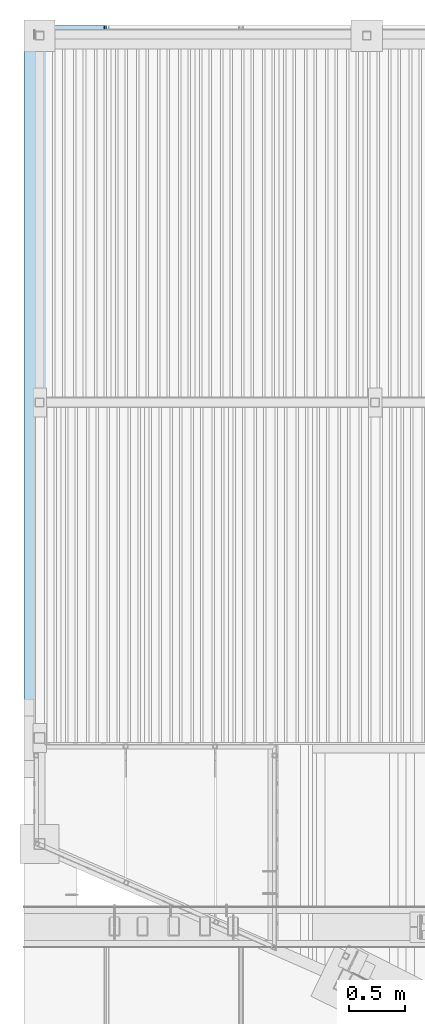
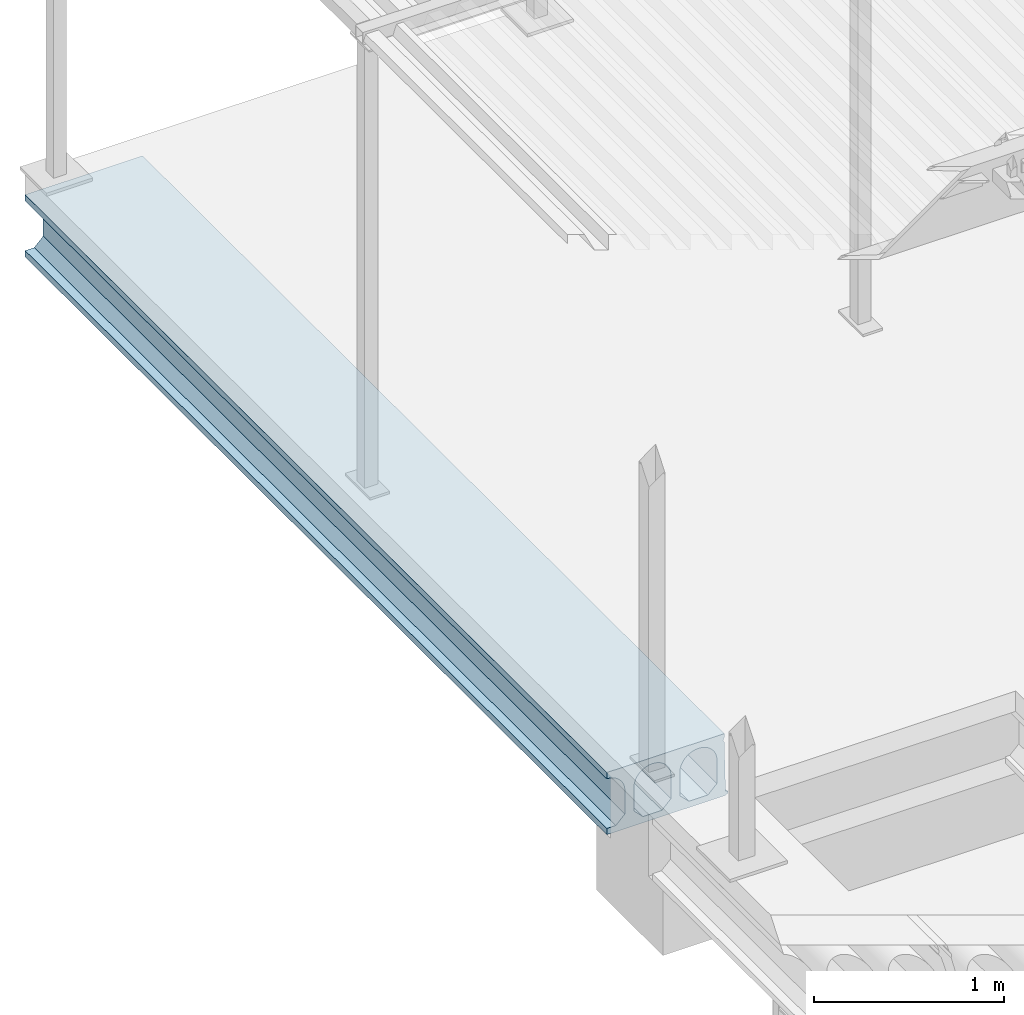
# One storey, part 77 of 98: 1 slab.
"""IFC2X3 building model written with IfcOpenShell, lengths in millimetres."""

from ifc_helpers import new_model, entity, si_unit, converted_unit, derived_unit, direction, frame, origin_with_axes, place, context, subcontext, project, spatial, faceted_brep, type_object, element, save


model = new_model("IFC2X3")

# Units and contexts
model_context = context("Model", 3, precision=0.01, world=frame((0.0, 4.29681676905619e-09, 0.0)), true_north=direction((4.01073788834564e-13, 1.0)))
plan_context = context("Plan", 3, precision=0.01, world=frame((0.0, 4.29681676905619e-09, 0.0)), true_north=direction((4.01073788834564e-13, 1.0)))
body_context = subcontext(model_context, "Body", "Model", "MODEL_VIEW")
ifc_project = project(units=[converted_unit("PLANEANGLEUNIT", "DEGREE", entity("IfcPositiveLengthMeasure", 0.0174532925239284), si_unit("PLANEANGLEUNIT", "RADIAN"), dimensions=[0, 0, 0, 0, 0, 0, 0]), si_unit("AREAUNIT", "SQUARE_METRE"), si_unit("LENGTHUNIT", "METRE", prefix="MILLI"), si_unit("MASSUNIT", "GRAM", prefix="KILO"), si_unit("POWERUNIT", "WATT"), si_unit("PRESSUREUNIT", "PASCAL"), si_unit("FORCEUNIT", "NEWTON", prefix="KILO"), si_unit("ELECTRICCURRENTUNIT", "AMPERE"), si_unit("THERMODYNAMICTEMPERATUREUNIT", "DEGREE_CELSIUS"), si_unit("TIMEUNIT", "SECOND"), si_unit("VOLUMEUNIT", "CUBIC_METRE"), derived_unit("LINEARVELOCITYUNIT", [(si_unit("LENGTHUNIT", "METRE"), 1), (si_unit("TIMEUNIT", "SECOND"), -1)]), derived_unit("VOLUMETRICFLOWRATEUNIT", [(si_unit("VOLUMEUNIT", "CUBIC_METRE"), 1), (si_unit("TIMEUNIT", "SECOND"), -1)]), derived_unit("THERMALTRANSMITTANCEUNIT", [(si_unit("POWERUNIT", "WATT"), 1), (si_unit("THERMODYNAMICTEMPERATUREUNIT", "KELVIN"), -1), (si_unit("AREAUNIT", "SQUARE_METRE"), -1)])], contexts=[model_context, plan_context])

# Site, building, storey
site_placement = place(None, frame((0.0, -4.29681676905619e-09, 0.0), z_axis=(0.0, 0.0, 1.0), x_axis=(1.0, 0.0, 0.0)))
site = spatial("IfcSite", under=ifc_project, at=site_placement, Name="Gardermoen", CompositionType="ELEMENT")
building_placement = place(site_placement, frame((0.0, 4.29681676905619e-09, 0.0), z_axis=(0.0, 0.0, 1.0), x_axis=(1.0, 0.0, 0.0)))
building = spatial("IfcBuilding", under=site, at=building_placement, Name="TS", CompositionType="ELEMENT")
storey_placement = place(building_placement, origin_with_axes())
storey = spatial("IfcBuildingStorey", under=building, at=storey_placement, Name="D", CompositionType="ELEMENT", Elevation=0.0)

# Slab
slab_type = type_object("IfcSlabType", Name="HD400", PredefinedType="NOTDEFINED")
slab_placement = place(storey_placement, frame((513999.999766, 414739.995625, 203600.0), z_axis=(0.0, 0.0, 1.0), x_axis=(0.0, 1.0, 0.0)))
element("IfcSlab", 1, at=slab_placement, inside=storey, type_object=slab_type, Name="HULLDEKKE", ObjectType="HD400", PredefinedType="FLOOR", context=body_context, shape_type="Brep", body=[
    faceted_brep([(0.0, 137.499765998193, 200.0), (6130.19582840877, 137.499765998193, 200.0), (6130.19582840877, -577.5, 200.0), (0.0, -577.5, 200.0), (6130.19582840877, -577.5, 175.0), (0.0, -577.5, 175.0), (6130.19582840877, -570.0, 160.0), (0.0, -570.0, 160.0), (6130.19582840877, -577.5, 145.0), (0.0, -577.5, 145.0), (6130.19582840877, -585.0, -170.0), (0.0, -585.0, -170.0), (6130.19582840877, -600.0, -180.0), (0.0, -600.0, -180.0), (6130.19582840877, -600.0, -190.0), (0.0, -600.0, -190.0), (6130.19582840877, -583.380004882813, -200.0), (0.0, -583.380004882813, -200.0), (6130.19582840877, 137.499765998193, -200.0), (0.0, 137.499765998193, -200.0), (6130.19582840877, -362.499999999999, -160.0), (6130.19582840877, -477.5, -160.0), (0.0, -477.5, -160.0), (0.0, -362.5, -160.0), (6130.19582840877, -532.500000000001, -104.999999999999), (0.0, -532.5, -105.0), (6130.19582840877, -532.5, 47.5000000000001), (0.0, -532.5, 47.5), (6130.19582840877, -532.11575546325, 56.7901763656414), (0.0, -532.115755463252, 56.7901763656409), (6130.19582840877, -530.965646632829, 66.0168914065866), (0.0, -530.965646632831, 66.0168914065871), (6130.19582840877, -529.057529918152, 75.1171173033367), (0.0, -529.057529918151, 75.1171173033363), (6130.19582840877, -526.404439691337, 84.0286902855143), (0.0, -526.404439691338, 84.028690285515), (6130.19582840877, -523.024499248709, 92.6907352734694), (0.0, -523.024499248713, 92.6907352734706), (6130.19582840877, -518.940797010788, 101.044081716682), (0.0, -518.940797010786, 101.044081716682), (6130.19582840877, -514.181228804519, 109.031667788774), (0.0, -514.181228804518, 109.031667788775), (6130.19582840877, -508.778307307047, 116.5989301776), (0.0, -508.778307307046, 116.598930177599), (6130.19582840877, -502.768939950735, 123.694176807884), (0.0, -502.768939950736, 123.694176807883), (6130.19582840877, -496.194176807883, 130.268939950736), (0.0, -496.194176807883, 130.268939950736), (6130.19582840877, -489.098930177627, 136.278307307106), (0.0, -489.098930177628, 136.278307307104), (6130.19582840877, -481.531667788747, 141.681228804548), (0.0, -481.531667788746, 141.681228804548), (6130.19582840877, -473.544081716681, 146.44079701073), (0.0, -473.544081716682, 146.440797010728), (6130.19582840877, -465.19073527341, 150.524499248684), (0.0, -465.190735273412, 150.524499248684), (6130.19582840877, -456.528690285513, 153.904439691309), (0.0, -456.528690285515, 153.904439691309), (6130.19582840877, -447.617117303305, 156.55752991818), (0.0, -447.617117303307, 156.55752991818), (6130.19582840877, -438.516891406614, 158.465646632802), (0.0, -438.516891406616, 158.465646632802), (6130.19582840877, -429.29017636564, 159.615755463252), (0.0, -429.290176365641, 159.615755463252), (6130.19582840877, -419.999999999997, 160.0), (0.0, -420.0, 160.0), (6130.19582840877, -410.70982363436, 159.615755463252), (0.0, -410.709823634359, 159.615755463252), (6130.19582840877, -401.483108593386, 158.465646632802), (0.0, -401.483108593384, 158.465646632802), (6130.19582840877, -392.38288269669, 156.55752991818), (0.0, -392.382882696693, 156.55752991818), (6130.19582840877, -383.471309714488, 153.90443969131), (0.0, -383.471309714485, 153.904439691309), (6130.19582840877, -374.809264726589, 150.524499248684), (0.0, -374.809264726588, 150.524499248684), (6130.19582840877, -366.45591828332, 146.440797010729), (0.0, -366.455918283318, 146.440797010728), (6130.19582840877, -358.468332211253, 141.681228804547), (0.0, -358.468332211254, 141.681228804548), (6130.19582840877, -350.901069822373, 136.278307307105), (0.0, -350.901069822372, 136.278307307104), (6130.19582840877, -343.805823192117, 130.268939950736), (0.0, -343.805823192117, 130.268939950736), (6130.19582840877, -337.231060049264, 123.694176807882), (0.0, -337.231060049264, 123.694176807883), (6130.19582840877, -331.221692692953, 116.598930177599), (0.0, -331.221692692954, 116.598930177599), (6130.19582840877, -325.818771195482, 109.031667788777), (0.0, -325.818771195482, 109.031667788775), (6130.19582840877, -321.059202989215, 101.044081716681), (0.0, -321.059202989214, 101.044081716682), (6130.19582840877, -316.975500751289, 92.6907352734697), (0.0, -316.975500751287, 92.6907352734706), (6130.19582840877, -313.59556030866, 84.0286902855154), (0.0, -313.595560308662, 84.028690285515), (6130.19582840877, -310.942470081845, 75.1171173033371), (0.0, -310.942470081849, 75.1171173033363), (6130.19582840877, -309.034353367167, 66.0168914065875), (0.0, -309.034353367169, 66.0168914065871), (6130.19582840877, -307.884244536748, 56.7901763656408), (0.0, -307.884244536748, 56.7901763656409), (6130.19582840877, -307.500000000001, 47.5000000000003), (0.0, -307.5, 47.5), (6130.19582840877, -307.500000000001, -105.0), (0.0, -307.5, -105.0), (6130.19582840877, -82.5000000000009, -160.0), (6130.19582840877, -197.499999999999, -160.0), (0.0, -197.5, -160.0), (0.0, -82.5, -160.0), (6130.19582840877, -252.5, -104.999999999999), (0.0, -252.5, -105.0), (6130.19582840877, -252.5, 47.5000000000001), (0.0, -252.5, 47.5), (6130.19582840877, -252.115755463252, 56.7901763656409), (0.0, -252.115755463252, 56.7901763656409), (6130.19582840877, -250.965646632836, 66.0168914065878), (0.0, -250.965646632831, 66.0168914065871), (6130.19582840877, -249.057529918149, 75.1171173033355), (0.0, -249.057529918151, 75.1171173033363), (6130.19582840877, -246.404439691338, 84.0286902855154), (0.0, -246.404439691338, 84.028690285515), (6130.19582840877, -243.024499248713, 92.6907352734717), (0.0, -243.024499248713, 92.6907352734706), (6130.19582840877, -238.940797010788, 101.044081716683), (0.0, -238.940797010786, 101.044081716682), (6130.19582840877, -234.181228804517, 109.031667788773), (0.0, -234.181228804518, 109.031667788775), (6130.19582840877, -228.778307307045, 116.598930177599), (0.0, -228.778307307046, 116.598930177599), (6130.19582840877, -222.768939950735, 123.694176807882), (0.0, -222.768939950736, 123.694176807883), (6130.19582840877, -216.194176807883, 130.268939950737), (0.0, -216.194176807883, 130.268939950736), (6130.19582840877, -209.098930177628, 136.278307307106), (0.0, -209.098930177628, 136.278307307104), (6130.19582840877, -201.531667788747, 141.681228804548), (0.0, -201.531667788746, 141.681228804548), (6130.19582840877, -193.544081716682, 146.44079701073), (0.0, -193.544081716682, 146.440797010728), (6130.19582840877, -185.190735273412, 150.524499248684), (0.0, -185.190735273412, 150.524499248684), (6130.19582840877, -176.528690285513, 153.90443969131), (0.0, -176.528690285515, 153.904439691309), (6130.19582840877, -167.617117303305, 156.55752991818), (0.0, -167.617117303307, 156.55752991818), (6130.19582840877, -158.516891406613, 158.465646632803), (0.0, -158.516891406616, 158.465646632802), (6130.19582840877, -149.290176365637, 159.615755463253), (0.0, -149.290176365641, 159.615755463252), (6130.19582840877, -139.999999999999, 160.0), (0.0, -140.0, 160.0), (6130.19582840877, -130.709823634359, 159.615755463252), (0.0, -130.709823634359, 159.615755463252), (6130.19582840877, -121.483108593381, 158.465646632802), (0.0, -121.483108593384, 158.465646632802), (6130.19582840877, -112.38288269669, 156.55752991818), (0.0, -112.382882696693, 156.55752991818), (6130.19582840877, -103.471309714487, 153.904439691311), (0.0, -103.471309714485, 153.904439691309), (6130.19582840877, -94.8092647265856, 150.524499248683), (0.0, -94.8092647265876, 150.524499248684), (6130.19582840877, -86.4559182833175, 146.440797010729), (0.0, -86.4559182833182, 146.440797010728), (6130.19582840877, -78.4683322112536, 141.681228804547), (0.0, -78.4683322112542, 141.681228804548), (6130.19582840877, -70.9010698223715, 136.278307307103), (0.0, -70.9010698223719, 136.278307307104), (6130.19582840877, -63.8058231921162, 130.268939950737), (0.0, -63.8058231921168, 130.268939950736), (6130.19582840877, -57.2310600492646, 123.694176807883), (0.0, -57.2310600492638, 123.694176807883), (6130.19582840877, -51.2216926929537, 116.598930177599), (0.0, -51.2216926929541, 116.598930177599), (6130.19582840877, -45.8187711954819, 109.031667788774), (0.0, -45.8187711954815, 109.031667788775), (6130.19582840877, -41.0592029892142, 101.044081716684), (0.0, -41.0592029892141, 101.044081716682), (6130.19582840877, -36.9755007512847, 92.6907352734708), (0.0, -36.9755007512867, 92.6907352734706), (6130.19582840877, -33.5955603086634, 84.028690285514), (0.0, -33.5955603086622, 84.028690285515), (6130.19582840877, -30.9424700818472, 75.1171173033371), (0.0, -30.942470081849, 75.1171173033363), (6130.19582840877, -29.0343533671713, 66.0168914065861), (0.0, -29.0343533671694, 66.0168914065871), (6130.19582840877, -27.8842445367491, 56.7901763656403), (0.0, -27.8842445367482, 56.7901763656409), (6130.19582840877, -27.5000000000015, 47.4999999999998), (0.0, -27.5, 47.5), (6130.19582840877, -27.5000000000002, -105.0), (0.0, -27.5, -105.0), (0.0, 137.499765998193, -160.0), (6130.19582840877, 137.499765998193, -160.0), (6130.19582840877, 82.5, -160.0), (0.0, 82.5, -160.0), (6130.19582840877, 27.5, -105.0), (0.0, 27.5, -105.0), (6130.19582840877, 27.5, 47.5), (0.0, 27.5, 47.5), (6130.19582840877, 27.8842445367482, 56.7901763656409), (0.0, 27.8842445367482, 56.7901763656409), (6130.19582840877, 29.0343533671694, 66.0168914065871), (0.0, 29.0343533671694, 66.0168914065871), (6130.19582840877, 30.942470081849, 75.1171173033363), (0.0, 30.942470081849, 75.1171173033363), (6130.19582840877, 33.5955603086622, 84.028690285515), (0.0, 33.5955603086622, 84.028690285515), (6130.19582840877, 36.9755007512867, 92.6907352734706), (0.0, 36.9755007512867, 92.6907352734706), (6130.19582840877, 41.0592029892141, 101.044081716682), (0.0, 41.0592029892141, 101.044081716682), (6130.19582840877, 45.8187711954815, 109.031667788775), (0.0, 45.8187711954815, 109.031667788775), (6130.19582840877, 51.2216926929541, 116.598930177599), (0.0, 51.2216926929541, 116.598930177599), (6130.19582840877, 57.2310600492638, 123.694176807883), (0.0, 57.2310600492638, 123.694176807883), (6130.19582840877, 63.8058231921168, 130.268939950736), (0.0, 63.8058231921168, 130.268939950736), (6130.19582840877, 70.9010698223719, 136.278307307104), (0.0, 70.9010698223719, 136.278307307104), (6130.19582840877, 78.4683322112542, 141.681228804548), (0.0, 78.4683322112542, 141.681228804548), (6130.19582840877, 86.4559182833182, 146.440797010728), (0.0, 86.4559182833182, 146.440797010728), (6130.19582840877, 94.8092647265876, 150.524499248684), (0.0, 94.8092647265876, 150.524499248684), (6130.19582840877, 103.471309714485, 153.904439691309), (0.0, 103.471309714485, 153.904439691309), (6130.19582840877, 112.382882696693, 156.55752991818), (0.0, 112.382882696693, 156.55752991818), (6130.19582840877, 121.483108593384, 158.465646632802), (0.0, 121.483108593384, 158.465646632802), (6130.19582840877, 130.709823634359, 159.615755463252), (0.0, 130.709823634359, 159.615755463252), (6130.19582840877, 137.499765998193, 159.896589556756), (0.0, 137.499765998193, 159.896589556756)], [[[0, 1, 2, 3]], [[2, 4, 5, 3]], [[4, 6, 7, 5]], [[6, 8, 9, 7]], [[8, 10, 11, 9]], [[10, 12, 13, 11]], [[12, 14, 15, 13]], [[14, 16, 17, 15]], [[16, 18, 19, 17]], [[20, 21, 22, 23]], [[21, 24, 25, 22]], [[24, 26, 27, 25]], [[26, 28, 29, 27]], [[28, 30, 31, 29]], [[30, 32, 33, 31]], [[32, 34, 35, 33]], [[34, 36, 37, 35]], [[36, 38, 39, 37]], [[38, 40, 41, 39]], [[40, 42, 43, 41]], [[42, 44, 45, 43]], [[44, 46, 47, 45]], [[46, 48, 49, 47]], [[48, 50, 51, 49]], [[50, 52, 53, 51]], [[52, 54, 55, 53]], [[54, 56, 57, 55]], [[56, 58, 59, 57]], [[58, 60, 61, 59]], [[60, 62, 63, 61]], [[62, 64, 65, 63]], [[64, 66, 67, 65]], [[66, 68, 69, 67]], [[68, 70, 71, 69]], [[70, 72, 73, 71]], [[72, 74, 75, 73]], [[74, 76, 77, 75]], [[76, 78, 79, 77]], [[78, 80, 81, 79]], [[80, 82, 83, 81]], [[82, 84, 85, 83]], [[84, 86, 87, 85]], [[86, 88, 89, 87]], [[88, 90, 91, 89]], [[90, 92, 93, 91]], [[92, 94, 95, 93]], [[94, 96, 97, 95]], [[96, 98, 99, 97]], [[98, 100, 101, 99]], [[100, 102, 103, 101]], [[102, 104, 105, 103]], [[104, 20, 23, 105]], [[106, 107, 108, 109]], [[107, 110, 111, 108]], [[110, 112, 113, 111]], [[112, 114, 115, 113]], [[114, 116, 117, 115]], [[116, 118, 119, 117]], [[118, 120, 121, 119]], [[120, 122, 123, 121]], [[122, 124, 125, 123]], [[124, 126, 127, 125]], [[126, 128, 129, 127]], [[128, 130, 131, 129]], [[130, 132, 133, 131]], [[132, 134, 135, 133]], [[134, 136, 137, 135]], [[136, 138, 139, 137]], [[138, 140, 141, 139]], [[140, 142, 143, 141]], [[142, 144, 145, 143]], [[144, 146, 147, 145]], [[146, 148, 149, 147]], [[148, 150, 151, 149]], [[150, 152, 153, 151]], [[152, 154, 155, 153]], [[154, 156, 157, 155]], [[156, 158, 159, 157]], [[158, 160, 161, 159]], [[160, 162, 163, 161]], [[162, 164, 165, 163]], [[164, 166, 167, 165]], [[166, 168, 169, 167]], [[168, 170, 171, 169]], [[170, 172, 173, 171]], [[172, 174, 175, 173]], [[174, 176, 177, 175]], [[176, 178, 179, 177]], [[178, 180, 181, 179]], [[180, 182, 183, 181]], [[182, 184, 185, 183]], [[184, 186, 187, 185]], [[186, 188, 189, 187]], [[188, 190, 191, 189]], [[190, 106, 109, 191]], [[192, 193, 194, 195]], [[194, 196, 197, 195]], [[196, 198, 199, 197]], [[198, 200, 201, 199]], [[200, 202, 203, 201]], [[202, 204, 205, 203]], [[204, 206, 207, 205]], [[206, 208, 209, 207]], [[208, 210, 211, 209]], [[210, 212, 213, 211]], [[212, 214, 215, 213]], [[214, 216, 217, 215]], [[216, 218, 219, 217]], [[218, 220, 221, 219]], [[220, 222, 223, 221]], [[222, 224, 225, 223]], [[224, 226, 227, 225]], [[226, 228, 229, 227]], [[228, 230, 231, 229]], [[230, 232, 233, 231]], [[232, 234, 235, 233]], [[234, 236, 237, 235]], [[19, 192, 195, 197, 199, 201, 203, 205, 207, 209, 211, 213, 215, 217, 219, 221, 223, 225, 227, 229, 231, 233, 235, 237, 0, 3, 5, 7, 9, 11, 13, 15, 17], [109, 108, 111, 113, 115, 117, 119, 121, 123, 125, 127, 129, 131, 133, 135, 137, 139, 141, 143, 145, 147, 149, 151, 153, 155, 157, 159, 161, 163, 165, 167, 169, 171, 173, 175, 177, 179, 181, 183, 185, 187, 189, 191], [23, 22, 25, 27, 29, 31, 33, 35, 37, 39, 41, 43, 45, 47, 49, 51, 53, 55, 57, 59, 61, 63, 65, 67, 69, 71, 73, 75, 77, 79, 81, 83, 85, 87, 89, 91, 93, 95, 97, 99, 101, 103, 105]], [[18, 16, 14, 12, 10, 8, 6, 4, 2, 1, 236, 234, 232, 230, 228, 226, 224, 222, 220, 218, 216, 214, 212, 210, 208, 206, 204, 202, 200, 198, 196, 194, 193]], [[1, 0, 237, 236]], [[193, 192, 19, 18]]], orient=[[False], [False], [False], [False], [False], [False], [False], [False], [False], [False], [False], [False], [False], [False], [False], [False], [False], [False], [False], [False], [False], [False], [False], [False], [False], [False], [False], [False], [False], [False], [False], [False], [False], [False], [False], [False], [False], [False], [False], [False], [False], [False], [False], [False], [False], [False], [False], [False], [False], [False], [False], [False], [False], [False], [False], [False], [False], [False], [False], [False], [False], [False], [False], [False], [False], [False], [False], [False], [False], [False], [False], [False], [False], [False], [False], [False], [False], [False], [False], [False], [False], [False], [False], [False], [False], [False], [False], [False], [False], [False], [False], [False], [False], [False], [False], [False], [False], [False], [False], [False], [False], [False], [False], [False], [False], [False], [False], [False], [False], [False], [False], [False], [False], [False], [False], [False], [False], [False, False, False], [False], [False], [False]]),
])

save(model, "model.ifc")
